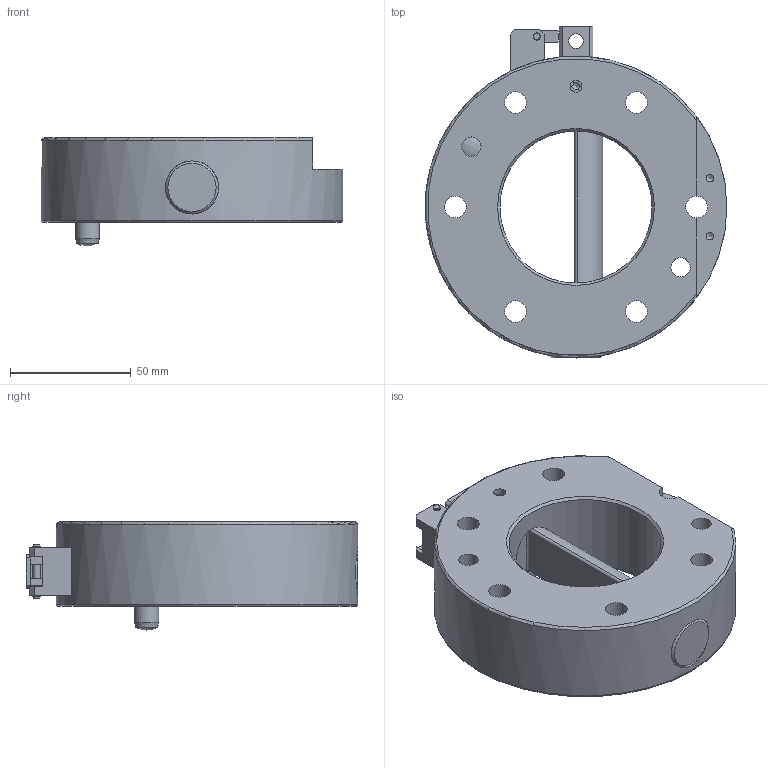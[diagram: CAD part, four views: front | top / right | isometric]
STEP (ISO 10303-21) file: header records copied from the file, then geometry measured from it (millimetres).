
FILE_DESCRIPTION(/* description */ (''),/* implementation_level */ '2;1');
FILE_NAME(/* name */ '\\dc01\daten\CAD\Standard\Daten\3D-Datenbank\Webseite 2020\SWS\125\G-SWS125-2OE-VS2.stp',/* time_stamp */ '2020-05-05T13:21:30+02:00',/* author */ ('ysplieth'),/* organization */ (''),/* preprocessor_version */ 'ST-DEVELOPER v17',/* originating_system */ 'Autodesk Inventor 2018',/* authorisation */ '');
FILE_SCHEMA (('AUTOMOTIVE_DESIGN { 1 0 10303 214 3 1 1 }'));
Length unit declared in the file: millimetre
Products named in the file (1): G-SWS125-2OE-VS2
Bounding box: 125 x 137.5 x 44.75 mm (x, y, z)
Volume: 306942.7 mm3; surface area: 63174.1 mm2
Topology: 9 solids, 9 shells, 170 faces, 458 edges, 314 vertices
Faces by surface type: plane 81, cylinder 56, cone 19, torus 8, bspline 4, sphere 2
Full cylindrical faces by diameter (mm): 2.459 x2, 3 x7, 3.242 x2, 3.4 x2, 4 x1, 4.917 x2, 5.5 x2, 6 x1, 6.1 x1, 6.5 x2, 8 x2, 9 x6, 10 x2, 15 x6, 22 x3, 63 x1, 125 x1
Entity records: 6166 total; most frequent: CARTESIAN_POINT 1524, DIRECTION 930, ORIENTED_EDGE 902, EDGE_CURVE 451, AXIS2_PLACEMENT_3D 363, VERTEX_POINT 314, EDGE_LOOP 225, LINE 204
